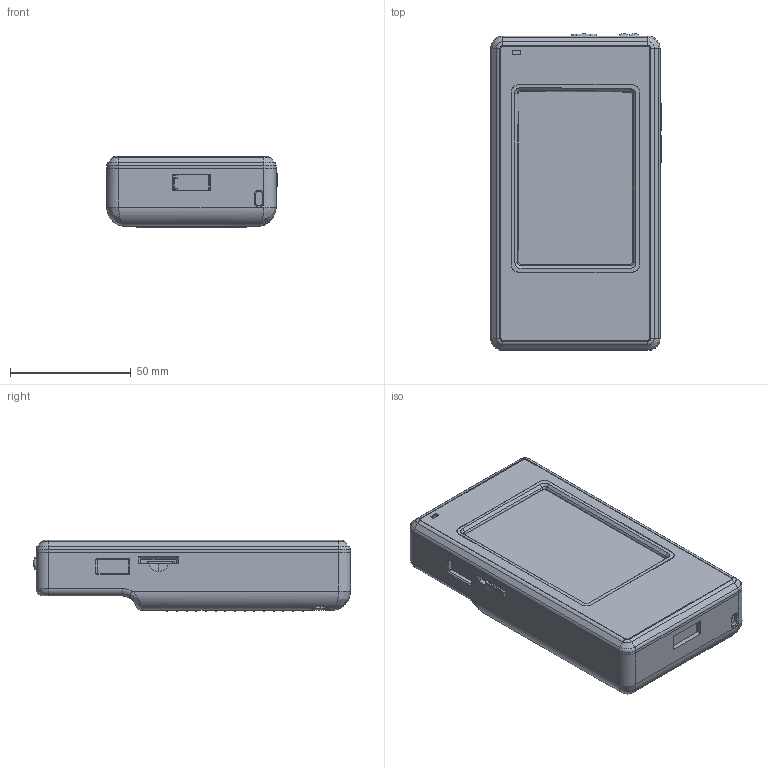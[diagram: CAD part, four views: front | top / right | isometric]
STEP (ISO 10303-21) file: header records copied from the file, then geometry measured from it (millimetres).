
FILE_DESCRIPTION(/* description */ (''),/* implementation_level */ '2;1');
FILE_NAME(/* name */ 'LS-手持设备.stp',/* time_stamp */ '2025-04-15T15:53:25+08:00',/* author */ (''),/* organization */ (''),/* preprocessor_version */ 'ST-DEVELOPER v16',/* originating_system */ 'SIEMENS PLM Software NX 10.0',/* authorisation */ '');
FILE_SCHEMA (('AUTOMOTIVE_DESIGN { 1 0 10303 214 3 1 1 1 }'));
Products named in the file (1): chao6D007F7Eqmpa
Bounding box: 70.5 x 131.07 x 29.5 mm (x, y, z)
Volume: 242698 mm3; surface area: 76775.1 mm2
Topology: 21 solids, 749 shells, 4780 faces, 15792 edges, 11740 vertices
Faces by surface type: plane 3398, cylinder 1088, torus 98, bspline 96, extrusion 55, cone 33, sphere 10, revolution 2
Entity records: 208797 total; most frequent: CARTESIAN_POINT 52214, ORIENTED_EDGE 27047, DIRECTION 21937, EDGE_CURVE 15780, VERTEX_POINT 11732, VECTOR 9015, LINE 8960, AXIS2_PLACEMENT_3D 6460
